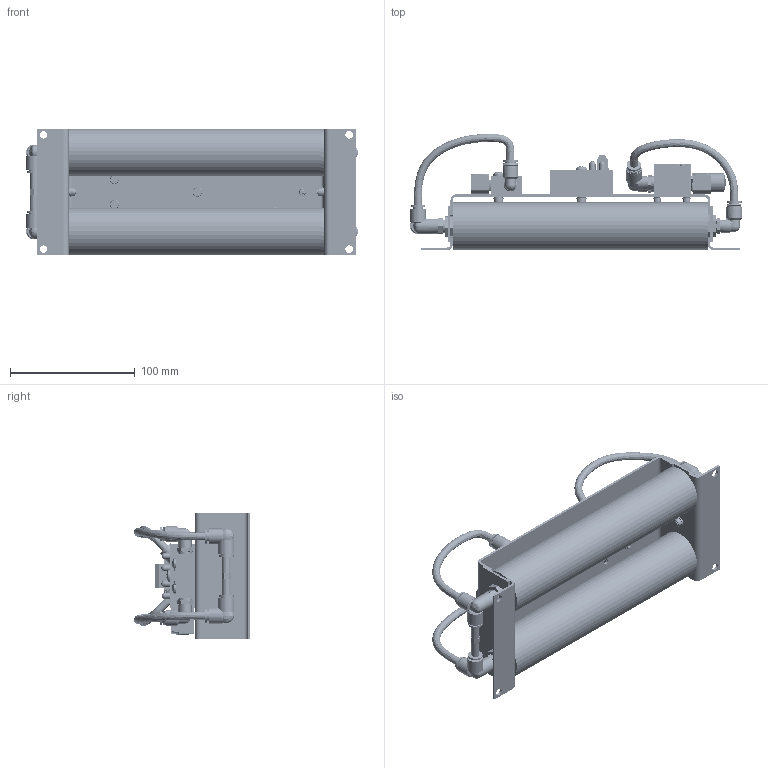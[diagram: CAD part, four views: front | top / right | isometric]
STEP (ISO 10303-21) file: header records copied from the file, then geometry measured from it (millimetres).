
FILE_DESCRIPTION (( 'STEP AP214' ), '1' );
FILE_NAME ('MDH4-XHE.STEP', '2020-09-17T17:04:24', ( '' ), ( '' ), 'SwSTEP 2.0', 'SolidWorks 2017', '' );
FILE_SCHEMA (( 'AUTOMOTIVE_DESIGN' ));
Length unit declared in the file: inch
Products named in the file (1): MDH4-XHE
Bounding box: 266.19 x 93.02 x 101.6 mm (x, y, z)
Volume: 535269.3 mm3; surface area: 307712 mm2
Topology: 60 solids, 60 shells, 5486 faces, 14171 edges, 9248 vertices
Faces by surface type: plane 2648, cylinder 1875, cone 420, bspline 418, torus 76, sphere 49
Entity records: 286343 total; most frequent: CARTESIAN_POINT 86736, ORIENTED_EDGE 28270, DIRECTION 24284, EDGE_CURVE 14135, VERTEX_POINT 9235, LINE 8098, VECTOR 8098, AXIS2_PLACEMENT_3D 8093
